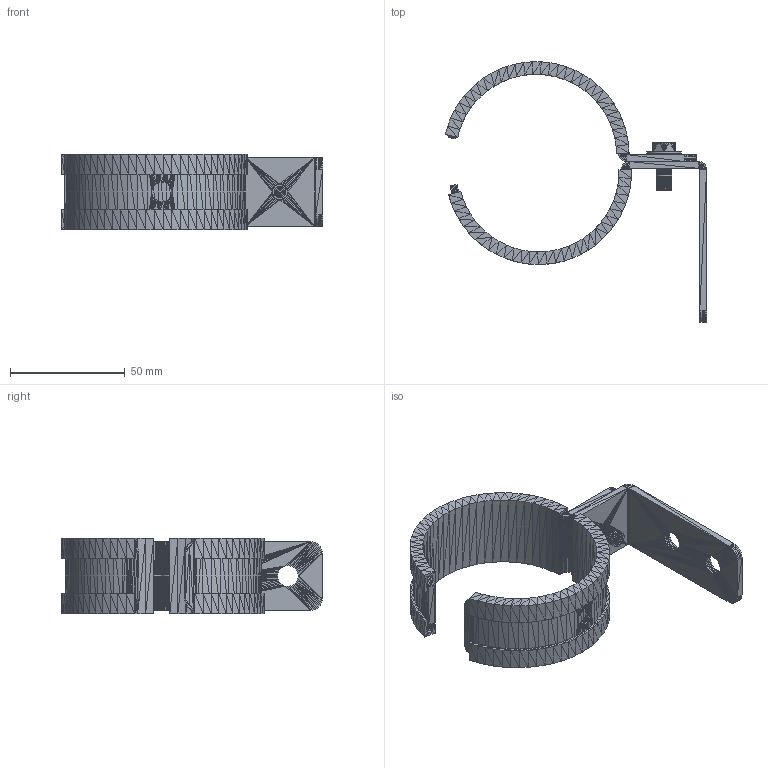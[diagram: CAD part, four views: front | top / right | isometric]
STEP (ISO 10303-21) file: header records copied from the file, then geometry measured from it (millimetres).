
FILE_DESCRIPTION((''),'2;1');
FILE_NAME('053627', '2025-07-22T07:01:42', (''), (''), 'ImageToStl.com STEP Converter','', '');
FILE_SCHEMA(('AUTOMOTIVE_DESIGN_CC2'));
Length unit declared in the file: metre
Products named in the file (7): product0; product1; product2; product3; product4; product5; product6
Bounding box: 113.82 x 113.47 x 33 mm (x, y, z)
Surface area: 50639.9 mm2 (no closed solid volume)
Topology: 0 solids, 9736 shells, 9736 faces, 29208 edges, 4866 vertices
Faces by surface type: plane 9736
Entity records: 224006 total; most frequent: DIRECTION 48682, ORIENTED_EDGE 29208, EDGE_CURVE 29208, LINE 29208, VECTOR 29208, AXIS2_PLACEMENT_3D 9737, FACE_SURFACE 9736, PLANE 9736
